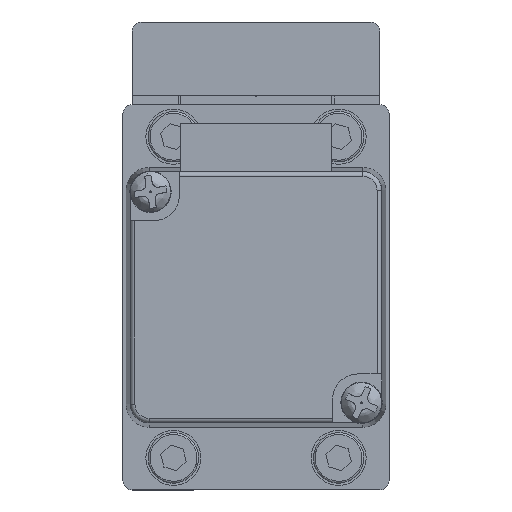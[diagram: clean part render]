
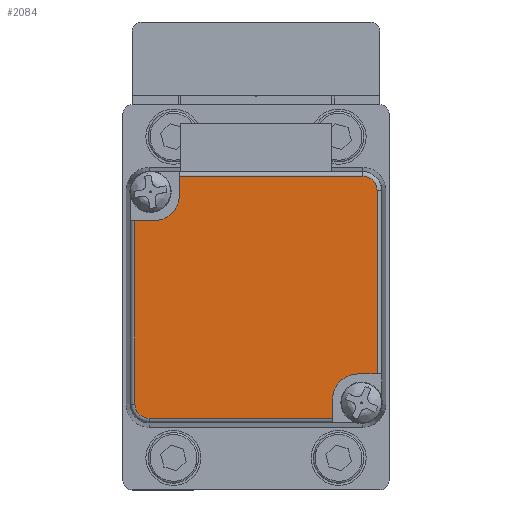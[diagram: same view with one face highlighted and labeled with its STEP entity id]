
A CAD part, left-side view. The second image highlights one B-rep face of the part: STEP entity #2084.
In plain terms, the highlighted planar face has unit normal (-1, 0, 0) as drawn and (0, 0, 1) by its records, which use the part's own axes.
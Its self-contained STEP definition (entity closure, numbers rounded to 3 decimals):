
#19 = LINE ( 'NONE', #14376, #11869 ) ;
#81 = CARTESIAN_POINT ( 'NONE',  ( 13.951, 2.575, 109.75 ) ) ;
#383 = EDGE_CURVE ( 'NONE', #9227, #10135, #8070, .T. ) ;
#386 = VECTOR ( 'NONE', #15976, 1000. ) ;
#525 = CIRCLE ( 'NONE', #12067, 1.542 ) ;
#550 = DIRECTION ( 'NONE',  ( 0., -1., 0. ) ) ;
#671 = PLANE ( 'NONE',  #8142 ) ;
#967 = VERTEX_POINT ( 'NONE', #7832 ) ;
#1150 = CARTESIAN_POINT ( 'NONE',  ( 9.112, 5.325, 109.75 ) ) ;
#1266 = FACE_OUTER_BOUND ( 'NONE', #8643, .T. ) ;
#1307 = DIRECTION ( 'NONE',  ( 0., 1., 0. ) ) ;
#1312 = LINE ( 'NONE', #17480, #386 ) ;
#1334 = DIRECTION ( 'NONE',  ( 0., -1., 0. ) ) ;
#2084 = ADVANCED_FACE ( 'NONE', ( #1266 ), #671, .T. ) ;
#2243 = DIRECTION ( 'NONE',  ( 0., 0., 1. ) ) ;
#2974 = LINE ( 'NONE', #7143, #9931 ) ;
#3303 = ORIENTED_EDGE ( 'NONE', *, *, #7170, .T. ) ;
#3610 = EDGE_CURVE ( 'NONE', #5341, #12747, #3914, .T. ) ;
#3661 = CARTESIAN_POINT ( 'NONE',  ( -7.593, -16.88, 109.75 ) ) ;
#3901 = CARTESIAN_POINT ( 'NONE',  ( 11.862, 2.575, 109.75 ) ) ;
#3914 = LINE ( 'NONE', #8133, #11295 ) ;
#4027 = DIRECTION ( 'NONE',  ( -1., 0., 0. ) ) ;
#4882 = EDGE_CURVE ( 'NONE', #5341, #9227, #1312, .T. ) ;
#4943 = ORIENTED_EDGE ( 'NONE', *, *, #16942, .T. ) ;
#5341 = VERTEX_POINT ( 'NONE', #6061 ) ;
#5786 = EDGE_CURVE ( 'NONE', #9902, #17275, #17994, .T. ) ;
#6015 = DIRECTION ( 'NONE',  ( 0., 0., 1. ) ) ;
#6061 = CARTESIAN_POINT ( 'NONE',  ( -7.593, -18.969, 109.75 ) ) ;
#6121 = AXIS2_PLACEMENT_3D ( 'NONE', #19078, #10216, #1307 ) ;
#6238 = EDGE_CURVE ( 'NONE', #10923, #12466, #18894, .T. ) ;
#6670 = DIRECTION ( 'NONE',  ( 0., 1., 0. ) ) ;
#7081 = EDGE_CURVE ( 'NONE', #12747, #14173, #9373, .T. ) ;
#7097 = VECTOR ( 'NONE', #18708, 1000. ) ;
#7143 = CARTESIAN_POINT ( 'NONE',  ( -12.432, -17.427, 109.75 ) ) ;
#7170 = EDGE_CURVE ( 'NONE', #967, #8528, #525, .T. ) ;
#7335 = VECTOR ( 'NONE', #16059, 1000. ) ;
#7364 = CARTESIAN_POINT ( 'NONE',  ( -10.343, -14.13, 109.75 ) ) ;
#7403 = CARTESIAN_POINT ( 'NONE',  ( 13.951, -17.427, 109.75 ) ) ;
#7405 = CARTESIAN_POINT ( 'NONE',  ( -10.891, 7.415, 109.75 ) ) ;
#7832 = CARTESIAN_POINT ( 'NONE',  ( -10.891, 7.415, 109.75 ) ) ;
#8070 = CIRCLE ( 'NONE', #16339, 1.542 ) ;
#8133 = CARTESIAN_POINT ( 'NONE',  ( -7.593, -16.88, 109.75 ) ) ;
#8142 = AXIS2_PLACEMENT_3D ( 'NONE', #11076, #2243, #8156 ) ;
#8156 = DIRECTION ( 'NONE',  ( 0., -1., 0. ) ) ;
#8528 = VERTEX_POINT ( 'NONE', #11073 ) ;
#8617 = DIRECTION ( 'NONE',  ( 0., -1., 0. ) ) ;
#8643 = EDGE_LOOP ( 'NONE', ( #12153, #11345, #12249, #14240, #3303, #4943, #19032, #13334, #18626, #14908, #17873, #16376 ) ) ;
#8956 = DIRECTION ( 'NONE',  ( -1., 0., 0. ) ) ;
#9227 = VERTEX_POINT ( 'NONE', #11101 ) ;
#9373 = CIRCLE ( 'NONE', #6121, 2.75 ) ;
#9456 = DIRECTION ( 'NONE',  ( 0., 0., 1. ) ) ;
#9902 = VERTEX_POINT ( 'NONE', #17025 ) ;
#9931 = VECTOR ( 'NONE', #8617, 1000. ) ;
#10124 = VECTOR ( 'NONE', #18918, 1000. ) ;
#10135 = VERTEX_POINT ( 'NONE', #7403 ) ;
#10216 = DIRECTION ( 'NONE',  ( 0., 0., 1. ) ) ;
#10244 = DIRECTION ( 'NONE',  ( 0., 0., 1. ) ) ;
#10923 = VERTEX_POINT ( 'NONE', #16862 ) ;
#11073 = CARTESIAN_POINT ( 'NONE',  ( -12.432, 5.873, 109.75 ) ) ;
#11076 = CARTESIAN_POINT ( 'NONE',  ( 12.409, 5.873, 109.75 ) ) ;
#11101 = CARTESIAN_POINT ( 'NONE',  ( 12.409, -18.969, 109.75 ) ) ;
#11193 = EDGE_CURVE ( 'NONE', #10135, #12466, #19150, .T. ) ;
#11295 = VECTOR ( 'NONE', #6670, 1000. ) ;
#11345 = ORIENTED_EDGE ( 'NONE', *, *, #17002, .F. ) ;
#11869 = VECTOR ( 'NONE', #4027, 1000. ) ;
#12031 = LINE ( 'NONE', #7405, #15486 ) ;
#12067 = AXIS2_PLACEMENT_3D ( 'NONE', #14862, #6015, #16347 ) ;
#12153 = ORIENTED_EDGE ( 'NONE', *, *, #6238, .F. ) ;
#12249 = ORIENTED_EDGE ( 'NONE', *, *, #5786, .F. ) ;
#12340 = CARTESIAN_POINT ( 'NONE',  ( 9.112, 5.325, 109.75 ) ) ;
#12466 = VERTEX_POINT ( 'NONE', #81 ) ;
#12747 = VERTEX_POINT ( 'NONE', #3661 ) ;
#13334 = ORIENTED_EDGE ( 'NONE', *, *, #7081, .F. ) ;
#13517 = EDGE_CURVE ( 'NONE', #14173, #13737, #19, .T. ) ;
#13737 = VERTEX_POINT ( 'NONE', #14958 ) ;
#14173 = VERTEX_POINT ( 'NONE', #7364 ) ;
#14240 = ORIENTED_EDGE ( 'NONE', *, *, #16575, .T. ) ;
#14376 = CARTESIAN_POINT ( 'NONE',  ( -10.343, -14.13, 109.75 ) ) ;
#14597 = CARTESIAN_POINT ( 'NONE',  ( 13.951, 5.873, 109.75 ) ) ;
#14862 = CARTESIAN_POINT ( 'NONE',  ( -10.891, 5.873, 109.75 ) ) ;
#14908 = ORIENTED_EDGE ( 'NONE', *, *, #4882, .T. ) ;
#14958 = CARTESIAN_POINT ( 'NONE',  ( -12.432, -14.13, 109.75 ) ) ;
#15486 = VECTOR ( 'NONE', #8956, 1000. ) ;
#15976 = DIRECTION ( 'NONE',  ( 1., 0., 0. ) ) ;
#16059 = DIRECTION ( 'NONE',  ( 0., 1., 0. ) ) ;
#16339 = AXIS2_PLACEMENT_3D ( 'NONE', #18323, #9456, #550 ) ;
#16347 = DIRECTION ( 'NONE',  ( 0., -1., 0. ) ) ;
#16376 = ORIENTED_EDGE ( 'NONE', *, *, #11193, .T. ) ;
#16575 = EDGE_CURVE ( 'NONE', #9902, #967, #12031, .T. ) ;
#16857 = CIRCLE ( 'NONE', #17327, 2.75 ) ;
#16862 = CARTESIAN_POINT ( 'NONE',  ( 11.862, 2.575, 109.75 ) ) ;
#16942 = EDGE_CURVE ( 'NONE', #8528, #13737, #2974, .T. ) ;
#17002 = EDGE_CURVE ( 'NONE', #17275, #10923, #16857, .T. ) ;
#17025 = CARTESIAN_POINT ( 'NONE',  ( 9.112, 7.415, 109.75 ) ) ;
#17275 = VERTEX_POINT ( 'NONE', #12340 ) ;
#17327 = AXIS2_PLACEMENT_3D ( 'NONE', #19118, #10244, #1334 ) ;
#17480 = CARTESIAN_POINT ( 'NONE',  ( 12.409, -18.969, 109.75 ) ) ;
#17873 = ORIENTED_EDGE ( 'NONE', *, *, #383, .T. ) ;
#17994 = LINE ( 'NONE', #1150, #10124 ) ;
#18323 = CARTESIAN_POINT ( 'NONE',  ( 12.409, -17.427, 109.75 ) ) ;
#18626 = ORIENTED_EDGE ( 'NONE', *, *, #3610, .F. ) ;
#18708 = DIRECTION ( 'NONE',  ( 1., 0., 0. ) ) ;
#18894 = LINE ( 'NONE', #3901, #7097 ) ;
#18918 = DIRECTION ( 'NONE',  ( 0., -1., 0. ) ) ;
#19032 = ORIENTED_EDGE ( 'NONE', *, *, #13517, .F. ) ;
#19078 = CARTESIAN_POINT ( 'NONE',  ( -10.343, -16.88, 109.75 ) ) ;
#19118 = CARTESIAN_POINT ( 'NONE',  ( 11.862, 5.325, 109.75 ) ) ;
#19150 = LINE ( 'NONE', #14597, #7335 ) ;
